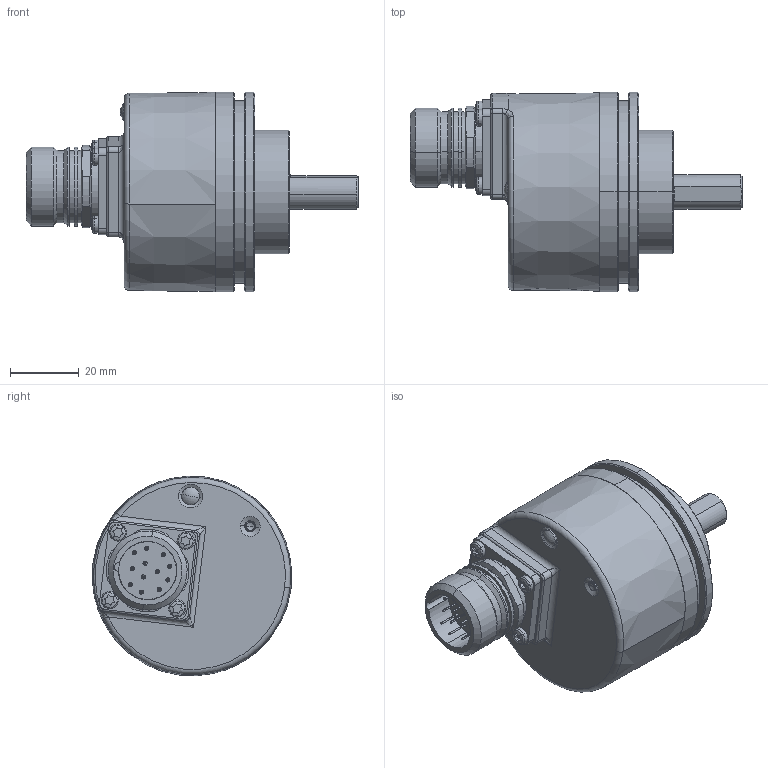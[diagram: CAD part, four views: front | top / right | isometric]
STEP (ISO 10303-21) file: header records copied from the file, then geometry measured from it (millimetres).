
FILE_DESCRIPTION (( 'STEP AP214' ), '1' );
FILE_NAME ('5853SIL.12X3.XXXX.STEP', '2010-07-20T07:50:05', ( 'admin' ), ( 'Fritz Kübler GmbH' ), 'SwSTEP 2.0', 'SolidWorks 2009', '' );
FILE_SCHEMA (( 'AUTOMOTIVE_DESIGN' ));
Length unit declared in the file: millimetre
Products named in the file (1): 5853SIL.12X3.XXXX
Bounding box: 96.5 x 58 x 58 mm (x, y, z)
Surface area: 22014.6 mm2 (no closed solid volume)
Topology: 0 solids, 31 shells, 337 faces, 883 edges, 560 vertices
Faces by surface type: cylinder 138, plane 86, cone 45, sphere 36, torus 26, bspline 6
Entity records: 15059 total; most frequent: CARTESIAN_POINT 2842, DIRECTION 2022, ORIENTED_EDGE 1548, AXIS2_PLACEMENT_3D 859, EDGE_CURVE 857, VERTEX_POINT 560, CIRCLE 527, EDGE_LOOP 388
